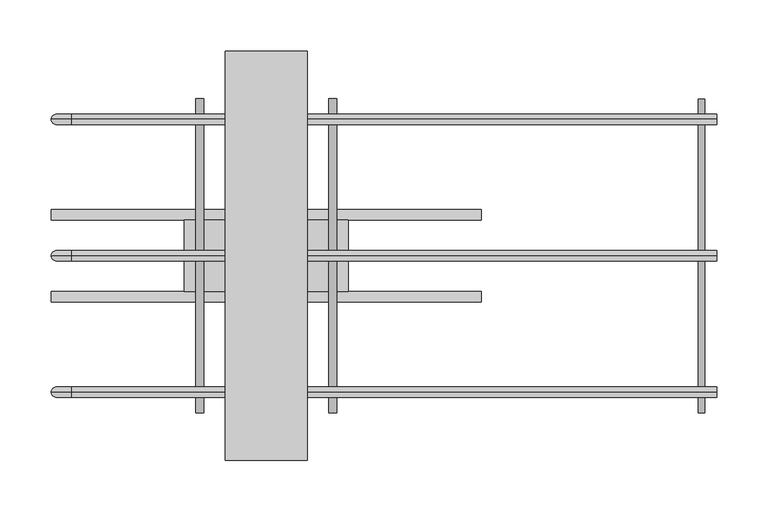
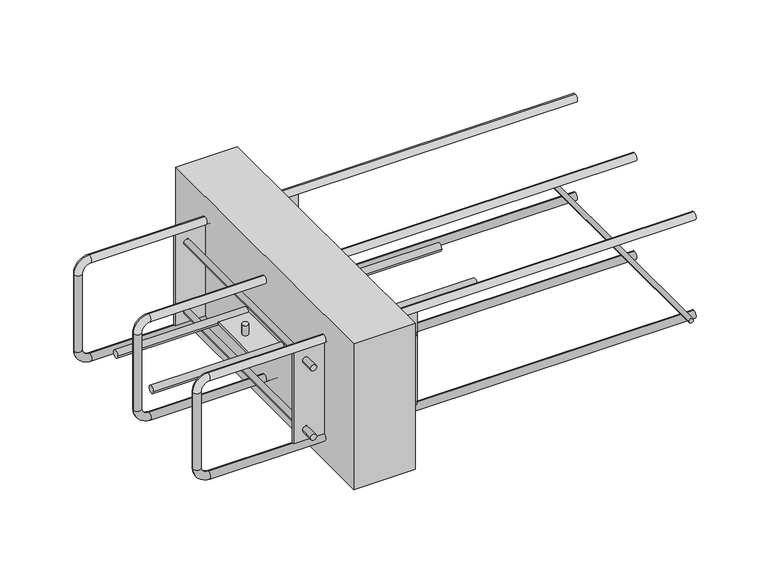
"""IFC4 building model written with IfcOpenShell, lengths in millimetres: proxy geometry, ACINOXplus_Typenreihe_Ux-Ox : UP+ S1."""

from ifc_helpers import new_model, si_unit, point, frame, frame_2d, origin, place, context, project, spatial, polyline, circle_curve, ellipse_curve, trimmed, segment, composite_curve, outline, extrude, source, transform, mapped, element, save
from ifc_brep_helpers import plane_surface, cylinder_surface, revolved_surface, advanced_brep


def generic_models_2ac76fd1(model_context):
    return source(origin(), model_context, "Body", "SolidModel", [
        extrude(outline(composite_curve([segment(trimmed(circle_curve(frame_2d((-159.5, 425.0)), 3.0), [point((-159.5, 428.0))], [point((-159.5, 422.0))], False, "CARTESIAN"), True, "CONTINUOUS"), segment(trimmed(circle_curve(frame_2d((-159.5, 425.0)), 3.0), [point((-159.5, 422.0))], [point((-159.5, 428.0))], False, "CARTESIAN"), True, "CONTINUOUS")], self_intersect=False)), frame((0.0, -153.3333333, 0.0), z_axis=(0.0, 1.0, 0.0), x_axis=(0.0, 0.0, 1.0)), (0.0, 0.0, 1.0), 306.6666667),
        extrude(outline(polyline([(40.0, 200.0), (40.0, -200.0), (-40.0, -200.0), (-40.0, 200.0), (40.0, 200.0)])), frame((0.0, 0.0, -200.0), z_axis=(0.0, 0.0, 1.0), x_axis=(1.0, 0.0, 0.0)), (0.0, 0.0, 1.0), 200.0),
        extrude(outline(composite_curve([segment(trimmed(circle_curve(frame_2d((-40.0, -100.0)), 5.0), [point((-45.0, -100.0))], [point((-35.0, -100.0))], False, "CARTESIAN"), True, "CONTINUOUS"), segment(trimmed(circle_curve(frame_2d((-40.0, -100.0)), 5.0), [point((-35.0, -100.0))], [point((-45.0, -100.0))], False, "CARTESIAN"), True, "CONTINUOUS")], self_intersect=False)), frame((-210.0, 0.0, 0.0), z_axis=(1.0, 0.0, 0.0), x_axis=(0.0, 1.0, 0.0)), (0.0, 0.0, 1.0), 420.0),
        extrude(outline(composite_curve([segment(trimmed(circle_curve(frame_2d((40.0, -100.0)), 5.0), [point((35.0, -100.0))], [point((45.0, -100.0))], False, "CARTESIAN"), True, "CONTINUOUS"), segment(trimmed(circle_curve(frame_2d((40.0, -100.0)), 5.0), [point((45.0, -100.0))], [point((35.0, -100.0))], False, "CARTESIAN"), True, "CONTINUOUS")], self_intersect=False)), frame((-210.0, 0.0, 0.0), z_axis=(1.0, 0.0, 0.0), x_axis=(0.0, 1.0, 0.0)), (0.0, 0.0, 1.0), 420.0),
        extrude(outline(composite_curve([segment(trimmed(circle_curve(frame_2d((-65.0, 0.0)), 4.0), [point((-61.0, 0.0))], [point((-69.0, 0.0))], False, "CARTESIAN"), True, "CONTINUOUS"), segment(trimmed(circle_curve(frame_2d((-65.0, 0.0)), 4.0), [point((-69.0, 0.0))], [point((-61.0, 0.0))], False, "CARTESIAN"), True, "CONTINUOUS")], self_intersect=False)), frame((0.0, 0.0, -98.5), z_axis=(0.0, 0.0, 1.0), x_axis=(1.0, 0.0, 0.0)), (0.0, 0.0, 1.0), 13.5),
        extrude(outline(composite_curve([segment(trimmed(circle_curve(frame_2d((65.0, 0.0)), 4.0), [point((69.0, 0.0))], [point((61.0, 0.0))], False, "CARTESIAN"), True, "CONTINUOUS"), segment(trimmed(circle_curve(frame_2d((65.0, 0.0)), 4.0), [point((61.0, 0.0))], [point((69.0, 0.0))], False, "CARTESIAN"), True, "CONTINUOUS")], self_intersect=False)), frame((0.0, 0.0, -98.5), z_axis=(0.0, 0.0, 1.0), x_axis=(1.0, 0.0, 0.0)), (0.0, 0.0, 1.0), 13.5),
        extrude(outline(composite_curve([segment(trimmed(circle_curve(frame_2d((-65.0, 0.0)), 4.0), [point((-69.0, 0.0))], [point((-61.0, 0.0))], False, "CARTESIAN"), True, "CONTINUOUS"), segment(trimmed(circle_curve(frame_2d((-65.0, 0.0)), 4.0), [point((-61.0, 0.0))], [point((-69.0, 0.0))], False, "CARTESIAN"), True, "CONTINUOUS")], self_intersect=False)), frame((0.0, 0.0, -115.0), z_axis=(0.0, 0.0, 1.0), x_axis=(1.0, 0.0, 0.0)), (0.0, 0.0, 1.0), 13.5),
        extrude(outline(composite_curve([segment(trimmed(circle_curve(frame_2d((65.0, 0.0)), 4.0), [point((61.0, 0.0))], [point((69.0, 0.0))], False, "CARTESIAN"), True, "CONTINUOUS"), segment(trimmed(circle_curve(frame_2d((65.0, 0.0)), 4.0), [point((69.0, 0.0))], [point((61.0, 0.0))], False, "CARTESIAN"), True, "CONTINUOUS")], self_intersect=False)), frame((0.0, 0.0, -115.0), z_axis=(0.0, 0.0, 1.0), x_axis=(1.0, 0.0, 0.0)), (0.0, 0.0, 1.0), 13.5),
        extrude(outline(polyline([(80.0, 35.0), (80.0, -35.0), (-80.0, -35.0), (-80.0, 35.0), (80.0, 35.0)])), frame((0.0, 0.0, -101.5), z_axis=(0.0, 0.0, 1.0), x_axis=(1.0, 0.0, 0.0)), (0.0, 0.0, 1.0), 3.0),
        extrude(outline(polyline([(80.0, -131.8333333), (80.0, -134.8333333), (-80.0, -134.8333333), (-80.0, -131.8333333), (80.0, -131.8333333)])), frame((0.0, 0.0, -162.5), z_axis=(0.0, 0.0, 1.0), x_axis=(1.0, 0.0, 0.0)), (0.0, 0.0, 1.0), 125.0),
        extrude(outline(polyline([(80.0, 134.8333333), (80.0, 131.8333333), (-80.0, 131.8333333), (-80.0, 134.8333333), (80.0, 134.8333333)])), frame((0.0, 0.0, -162.5), z_axis=(0.0, 0.0, 1.0), x_axis=(1.0, 0.0, 0.0)), (0.0, 0.0, 1.0), 125.0),
        extrude(outline(composite_curve([segment(trimmed(circle_curve(frame_2d((-147.5, -65.0)), 4.0), [point((-147.5, -69.0))], [point((-147.5, -61.0))], False, "CARTESIAN"), True, "CONTINUOUS"), segment(trimmed(circle_curve(frame_2d((-147.5, -65.0)), 4.0), [point((-147.5, -61.0))], [point((-147.5, -69.0))], False, "CARTESIAN"), True, "CONTINUOUS")], self_intersect=False)), frame((0.0, 134.8333333, 0.0), z_axis=(0.0, 1.0, 0.0), x_axis=(0.0, 0.0, 1.0)), (0.0, 0.0, 1.0), 18.5),
        extrude(outline(composite_curve([segment(trimmed(circle_curve(frame_2d((-147.5, -65.0)), 4.0), [point((-147.5, -61.0))], [point((-147.5, -69.0))], False, "CARTESIAN"), True, "CONTINUOUS"), segment(trimmed(circle_curve(frame_2d((-147.5, -65.0)), 4.0), [point((-147.5, -69.0))], [point((-147.5, -61.0))], False, "CARTESIAN"), True, "CONTINUOUS")], self_intersect=False)), frame((0.0, -153.3333333, 0.0), z_axis=(0.0, 1.0, 0.0), x_axis=(0.0, 0.0, 1.0)), (0.0, 0.0, 1.0), 18.5),
        extrude(outline(composite_curve([segment(trimmed(circle_curve(frame_2d((-147.5, -65.0)), 4.0), [point((-147.5, -69.0))], [point((-147.5, -61.0))], False, "CARTESIAN"), True, "CONTINUOUS"), segment(trimmed(circle_curve(frame_2d((-147.5, -65.0)), 4.0), [point((-147.5, -61.0))], [point((-147.5, -69.0))], False, "CARTESIAN"), True, "CONTINUOUS")], self_intersect=False)), frame((0.0, -131.8333333, 0.0), z_axis=(0.0, 1.0, 0.0), x_axis=(0.0, 0.0, 1.0)), (0.0, 0.0, 1.0), 263.6666667),
        extrude(outline(composite_curve([segment(trimmed(circle_curve(frame_2d((-147.5, 65.0)), 4.0), [point((-147.5, 61.0))], [point((-147.5, 69.0))], False, "CARTESIAN"), True, "CONTINUOUS"), segment(trimmed(circle_curve(frame_2d((-147.5, 65.0)), 4.0), [point((-147.5, 69.0))], [point((-147.5, 61.0))], False, "CARTESIAN"), True, "CONTINUOUS")], self_intersect=False)), frame((0.0, 134.8333333, 0.0), z_axis=(0.0, 1.0, 0.0), x_axis=(0.0, 0.0, 1.0)), (0.0, 0.0, 1.0), 18.5),
        extrude(outline(composite_curve([segment(trimmed(circle_curve(frame_2d((-147.5, 65.0)), 4.0), [point((-147.5, 69.0))], [point((-147.5, 61.0))], False, "CARTESIAN"), True, "CONTINUOUS"), segment(trimmed(circle_curve(frame_2d((-147.5, 65.0)), 4.0), [point((-147.5, 61.0))], [point((-147.5, 69.0))], False, "CARTESIAN"), True, "CONTINUOUS")], self_intersect=False)), frame((0.0, -153.3333333, 0.0), z_axis=(0.0, 1.0, 0.0), x_axis=(0.0, 0.0, 1.0)), (0.0, 0.0, 1.0), 18.5),
        extrude(outline(composite_curve([segment(trimmed(circle_curve(frame_2d((-147.5, 65.0)), 4.0), [point((-147.5, 61.0))], [point((-147.5, 69.0))], False, "CARTESIAN"), True, "CONTINUOUS"), segment(trimmed(circle_curve(frame_2d((-147.5, 65.0)), 4.0), [point((-147.5, 69.0))], [point((-147.5, 61.0))], False, "CARTESIAN"), True, "CONTINUOUS")], self_intersect=False)), frame((0.0, -131.8333333, 0.0), z_axis=(0.0, 1.0, 0.0), x_axis=(0.0, 0.0, 1.0)), (0.0, 0.0, 1.0), 263.6666667),
        extrude(outline(composite_curve([segment(trimmed(circle_curve(frame_2d((-52.5, -65.0)), 4.0), [point((-52.5, -69.0))], [point((-52.5, -61.0))], False, "CARTESIAN"), True, "CONTINUOUS"), segment(trimmed(circle_curve(frame_2d((-52.5, -65.0)), 4.0), [point((-52.5, -61.0))], [point((-52.5, -69.0))], False, "CARTESIAN"), True, "CONTINUOUS")], self_intersect=False)), frame((0.0, 134.8333333, 0.0), z_axis=(0.0, 1.0, 0.0), x_axis=(0.0, 0.0, 1.0)), (0.0, 0.0, 1.0), 18.5),
        extrude(outline(composite_curve([segment(trimmed(circle_curve(frame_2d((-52.5, -65.0)), 4.0), [point((-52.5, -61.0))], [point((-52.5, -69.0))], False, "CARTESIAN"), True, "CONTINUOUS"), segment(trimmed(circle_curve(frame_2d((-52.5, -65.0)), 4.0), [point((-52.5, -69.0))], [point((-52.5, -61.0))], False, "CARTESIAN"), True, "CONTINUOUS")], self_intersect=False)), frame((0.0, -153.3333333, 0.0), z_axis=(0.0, 1.0, 0.0), x_axis=(0.0, 0.0, 1.0)), (0.0, 0.0, 1.0), 18.5),
        extrude(outline(composite_curve([segment(trimmed(circle_curve(frame_2d((-52.5, -65.0)), 4.0), [point((-52.5, -69.0))], [point((-52.5, -61.0))], False, "CARTESIAN"), True, "CONTINUOUS"), segment(trimmed(circle_curve(frame_2d((-52.5, -65.0)), 4.0), [point((-52.5, -61.0))], [point((-52.5, -69.0))], False, "CARTESIAN"), True, "CONTINUOUS")], self_intersect=False)), frame((0.0, -131.8333333, 0.0), z_axis=(0.0, 1.0, 0.0), x_axis=(0.0, 0.0, 1.0)), (0.0, 0.0, 1.0), 263.6666667),
        extrude(outline(composite_curve([segment(trimmed(circle_curve(frame_2d((-52.5, 65.0)), 4.0), [point((-52.5, 61.0))], [point((-52.5, 69.0))], False, "CARTESIAN"), True, "CONTINUOUS"), segment(trimmed(circle_curve(frame_2d((-52.5, 65.0)), 4.0), [point((-52.5, 69.0))], [point((-52.5, 61.0))], False, "CARTESIAN"), True, "CONTINUOUS")], self_intersect=False)), frame((0.0, 134.8333333, 0.0), z_axis=(0.0, 1.0, 0.0), x_axis=(0.0, 0.0, 1.0)), (0.0, 0.0, 1.0), 18.5),
        extrude(outline(composite_curve([segment(trimmed(circle_curve(frame_2d((-52.5, 65.0)), 4.0), [point((-52.5, 69.0))], [point((-52.5, 61.0))], False, "CARTESIAN"), True, "CONTINUOUS"), segment(trimmed(circle_curve(frame_2d((-52.5, 65.0)), 4.0), [point((-52.5, 61.0))], [point((-52.5, 69.0))], False, "CARTESIAN"), True, "CONTINUOUS")], self_intersect=False)), frame((0.0, -153.3333333, 0.0), z_axis=(0.0, 1.0, 0.0), x_axis=(0.0, 0.0, 1.0)), (0.0, 0.0, 1.0), 18.5),
        extrude(outline(composite_curve([segment(trimmed(circle_curve(frame_2d((-52.5, 65.0)), 4.0), [point((-52.5, 61.0))], [point((-52.5, 69.0))], False, "CARTESIAN"), True, "CONTINUOUS"), segment(trimmed(circle_curve(frame_2d((-52.5, 65.0)), 4.0), [point((-52.5, 69.0))], [point((-52.5, 61.0))], False, "CARTESIAN"), True, "CONTINUOUS")], self_intersect=False)), frame((0.0, -131.8333333, 0.0), z_axis=(0.0, 1.0, 0.0), x_axis=(0.0, 0.0, 1.0)), (0.0, 0.0, 1.0), 263.6666667),
        advanced_brep(
        [(440.0, 0.0, -27.5), (440.0, 0.0, -37.5), (-190.0, 0.0, -27.5), (-190.0, 0.0, -37.5), (-200.0, 0.0, -47.5), (-210.0, 0.0, -47.5), (-210.0, 0.0, -152.5), (-200.0, 0.0, -152.5), (-190.0, 0.0, -162.5), (-190.0, 0.0, -172.5), (440.0, 0.0, -172.5), (440.0, 0.0, -162.5)],
        [
            (0, 1, circle_curve(frame((440.0, 0.0, -32.5), z_axis=(1.0, 0.0, 0.0), x_axis=(0.0, 0.0, -1.0)), 5.0)),
            (1, 0, circle_curve(frame((440.0, 0.0, -32.5), z_axis=(1.0, 0.0, 0.0), x_axis=(0.0, 0.0, -1.0)), 5.0)),
            (0, 2),
            (2, 3, circle_curve(frame((-190.0, 0.0, -32.5), z_axis=(1.0, 0.0, 0.0), x_axis=(0.0, 0.0, -1.0)), 5.0)),
            (3, 1),
            (3, 2, circle_curve(frame((-190.0, 0.0, -32.5), z_axis=(1.0, 0.0, 0.0), x_axis=(0.0, 0.0, -1.0)), 5.0)),
            (4, 3, circle_curve(frame((-190.0, 0.0, -47.5), z_axis=(0.0, 1.0, 0.0), x_axis=(0.0, 0.0, 1.0)), 10.0)),
            (2, 5, circle_curve(frame((-190.0, 0.0, -47.5), z_axis=(0.0, -1.0, 0.0), x_axis=(0.0, 0.0, 1.0)), 20.0)),
            (5, 4, circle_curve(frame((-205.0, 0.0, -47.5), z_axis=(0.0, 0.0, 1.0), x_axis=(1.0, 0.0, 0.0)), 5.0)),
            (4, 5, circle_curve(frame((-205.0, 0.0, -47.5), z_axis=(0.0, 0.0, 1.0), x_axis=(1.0, 0.0, 0.0)), 5.0)),
            (5, 6),
            (6, 7, circle_curve(frame((-205.0, 0.0, -152.5), z_axis=(0.0, 0.0, 1.0), x_axis=(1.0, 0.0, 0.0)), 5.0)),
            (7, 4),
            (7, 6, circle_curve(frame((-205.0, 0.0, -152.5), z_axis=(0.0, 0.0, 1.0), x_axis=(1.0, 0.0, 0.0)), 5.0)),
            (8, 7, circle_curve(frame((-190.0, 0.0, -152.5), z_axis=(0.0, 1.0, 0.0), x_axis=(-1.0, 0.0, 0.0)), 10.0)),
            (6, 9, circle_curve(frame((-190.0, 0.0, -152.5), z_axis=(0.0, -1.0, 0.0), x_axis=(-1.0, 0.0, 0.0)), 20.0)),
            (9, 8, circle_curve(frame((-190.0, 0.0, -167.5), z_axis=(-1.0, 0.0, 0.0), x_axis=(0.0, 0.0, 1.0)), 5.0)),
            (8, 9, circle_curve(frame((-190.0, 0.0, -167.5), z_axis=(-1.0, 0.0, 0.0), x_axis=(0.0, 0.0, 1.0)), 5.0)),
            (10, 11, circle_curve(frame((440.0, 0.0, -167.5), z_axis=(1.0, 0.0, 0.0), x_axis=(0.0, 0.0, 1.0)), 5.0)),
            (11, 10, circle_curve(frame((440.0, 0.0, -167.5), z_axis=(1.0, 0.0, 0.0), x_axis=(0.0, 0.0, 1.0)), 5.0)),
            (9, 10),
            (11, 8),
        ],
        [
            plane_surface(frame((440.0, 0.0, -32.5), z_axis=(1.0, 0.0, 0.0), x_axis=(0.0, -1.0, 0.0))),
            cylinder_surface(frame((440.0, 0.0, -32.5), z_axis=(1.0, 0.0, 0.0), x_axis=(0.0, 0.0, -1.0)), 5.0),
            revolved_surface(trimmed(ellipse_curve(frame((-190.0, 0.0, -32.5), z_axis=(1.0, 0.0, 0.0), x_axis=(0.0, 0.0, -1.0)), 5.0, 5.0), [point((-190.0, 0.0, -27.5))], [point((-190.0, 0.0, -37.5))], True, "CARTESIAN"), (-190.0, 0.0, -47.5), (0.0, -1.0, 0.0)),
            revolved_surface(trimmed(ellipse_curve(frame((-190.0, 0.0, -32.5), z_axis=(1.0, 0.0, 0.0), x_axis=(0.0, 0.0, -1.0)), 5.0, 5.0), [point((-190.0, 0.0, -37.5))], [point((-190.0, 0.0, -27.5))], True, "CARTESIAN"), (-190.0, 0.0, -47.5), (0.0, -1.0, 0.0)),
            cylinder_surface(frame((-205.0, 0.0, -47.5), z_axis=(0.0, 0.0, 1.0), x_axis=(1.0, 0.0, 0.0)), 5.0),
            revolved_surface(trimmed(ellipse_curve(frame((-205.0, 0.0, -152.5), z_axis=(0.0, 0.0, 1.0), x_axis=(1.0, 0.0, 0.0)), 5.0, 5.0), [point((-210.0, 0.0, -152.5))], [point((-200.0, 0.0, -152.5))], True, "CARTESIAN"), (-190.0, 0.0, -152.5), (0.0, -1.0, 0.0)),
            revolved_surface(trimmed(ellipse_curve(frame((-205.0, 0.0, -152.5), z_axis=(0.0, 0.0, 1.0), x_axis=(1.0, 0.0, 0.0)), 5.0, 5.0), [point((-200.0, 0.0, -152.5))], [point((-210.0, 0.0, -152.5))], True, "CARTESIAN"), (-190.0, 0.0, -152.5), (0.0, -1.0, 0.0)),
            plane_surface(frame((440.0, 0.0, -167.5), z_axis=(1.0, 0.0, 0.0), x_axis=(0.0, -1.0, 0.0))),
            cylinder_surface(frame((-190.0, 0.0, -167.5), z_axis=(-1.0, 0.0, 0.0), x_axis=(0.0, 0.0, 1.0)), 5.0),
        ],
        [
            (0, [[1, 2]]),
            (1, [[-1, 3, 4, 5]]),
            (1, [[-2, -5, 6, -3]]),
            (2, [[7, -4, 8, 9]]),
            (3, [[-8, -6, -7, 10]]),
            (4, [[-9, 11, 12, 13]]),
            (4, [[-10, -13, 14, -11]]),
            (5, [[15, -12, 16, 17]]),
            (6, [[-16, -14, -15, 18]]),
            (7, [[19, 20]]),
            (8, [[-17, 21, -20, 22]]),
            (8, [[-18, -22, -19, -21]]),
        ],
    ),
        advanced_brep(
        [(440.0, 133.3333333, -27.5), (440.0, 133.3333333, -37.5), (-190.0, 133.3333333, -27.5), (-190.0, 133.3333333, -37.5), (-200.0, 133.3333333, -47.5), (-210.0, 133.3333333, -47.5), (-210.0, 133.3333333, -152.5), (-200.0, 133.3333333, -152.5), (-190.0, 133.3333333, -162.5), (-190.0, 133.3333333, -172.5), (440.0, 133.3333333, -172.5), (440.0, 133.3333333, -162.5)],
        [
            (0, 1, circle_curve(frame((440.0, 133.3333333, -32.5), z_axis=(1.0, 0.0, 0.0), x_axis=(0.0, 0.0, -1.0)), 5.0)),
            (1, 0, circle_curve(frame((440.0, 133.3333333, -32.5), z_axis=(1.0, 0.0, 0.0), x_axis=(0.0, 0.0, -1.0)), 5.0)),
            (0, 2),
            (2, 3, circle_curve(frame((-190.0, 133.3333333, -32.5), z_axis=(1.0, 0.0, 0.0), x_axis=(0.0, 0.0, -1.0)), 5.0)),
            (3, 1),
            (3, 2, circle_curve(frame((-190.0, 133.3333333, -32.5), z_axis=(1.0, 0.0, 0.0), x_axis=(0.0, 0.0, -1.0)), 5.0)),
            (4, 3, circle_curve(frame((-190.0, 133.3333333, -47.5), z_axis=(0.0, 1.0, 0.0), x_axis=(0.0, 0.0, 1.0)), 10.0)),
            (2, 5, circle_curve(frame((-190.0, 133.3333333, -47.5), z_axis=(0.0, -1.0, 0.0), x_axis=(0.0, 0.0, 1.0)), 20.0)),
            (5, 4, circle_curve(frame((-205.0, 133.3333333, -47.5), z_axis=(0.0, 0.0, 1.0), x_axis=(1.0, 0.0, 0.0)), 5.0)),
            (4, 5, circle_curve(frame((-205.0, 133.3333333, -47.5), z_axis=(0.0, 0.0, 1.0), x_axis=(1.0, 0.0, 0.0)), 5.0)),
            (5, 6),
            (6, 7, circle_curve(frame((-205.0, 133.3333333, -152.5), z_axis=(0.0, 0.0, 1.0), x_axis=(1.0, 0.0, 0.0)), 5.0)),
            (7, 4),
            (7, 6, circle_curve(frame((-205.0, 133.3333333, -152.5), z_axis=(0.0, 0.0, 1.0), x_axis=(1.0, 0.0, 0.0)), 5.0)),
            (8, 7, circle_curve(frame((-190.0, 133.3333333, -152.5), z_axis=(0.0, 1.0, 0.0), x_axis=(-1.0, 0.0, 0.0)), 10.0)),
            (6, 9, circle_curve(frame((-190.0, 133.3333333, -152.5), z_axis=(0.0, -1.0, 0.0), x_axis=(-1.0, 0.0, 0.0)), 20.0)),
            (9, 8, circle_curve(frame((-190.0, 133.3333333, -167.5), z_axis=(-1.0, 0.0, 0.0), x_axis=(0.0, 0.0, 1.0)), 5.0)),
            (8, 9, circle_curve(frame((-190.0, 133.3333333, -167.5), z_axis=(-1.0, 0.0, 0.0), x_axis=(0.0, 0.0, 1.0)), 5.0)),
            (10, 11, circle_curve(frame((440.0, 133.3333333, -167.5), z_axis=(1.0, 0.0, 0.0), x_axis=(0.0, 0.0, 1.0)), 5.0)),
            (11, 10, circle_curve(frame((440.0, 133.3333333, -167.5), z_axis=(1.0, 0.0, 0.0), x_axis=(0.0, 0.0, 1.0)), 5.0)),
            (9, 10),
            (11, 8),
        ],
        [
            plane_surface(frame((440.0, 133.3333333, -32.5), z_axis=(1.0, 0.0, 0.0), x_axis=(0.0, -1.0, 0.0))),
            cylinder_surface(frame((440.0, 133.3333333, -32.5), z_axis=(1.0, 0.0, 0.0), x_axis=(0.0, 0.0, -1.0)), 5.0),
            revolved_surface(trimmed(ellipse_curve(frame((-190.0, 133.3333333, -32.5), z_axis=(1.0, 0.0, 0.0), x_axis=(0.0, 0.0, -1.0)), 5.0, 5.0), [point((-190.0, 133.3333333, -27.5))], [point((-190.0, 133.3333333, -37.5))], True, "CARTESIAN"), (-190.0, 133.3333333, -47.5), (0.0, -1.0, 0.0)),
            revolved_surface(trimmed(ellipse_curve(frame((-190.0, 133.3333333, -32.5), z_axis=(1.0, 0.0, 0.0), x_axis=(0.0, 0.0, -1.0)), 5.0, 5.0), [point((-190.0, 133.3333333, -37.5))], [point((-190.0, 133.3333333, -27.5))], True, "CARTESIAN"), (-190.0, 133.3333333, -47.5), (0.0, -1.0, 0.0)),
            cylinder_surface(frame((-205.0, 133.3333333, -47.5), z_axis=(0.0, 0.0, 1.0), x_axis=(1.0, 0.0, 0.0)), 5.0),
            revolved_surface(trimmed(ellipse_curve(frame((-205.0, 133.3333333, -152.5), z_axis=(0.0, 0.0, 1.0), x_axis=(1.0, 0.0, 0.0)), 5.0, 5.0), [point((-210.0, 133.3333333, -152.5))], [point((-200.0, 133.3333333, -152.5))], True, "CARTESIAN"), (-190.0, 133.3333333, -152.5), (0.0, -1.0, 0.0)),
            revolved_surface(trimmed(ellipse_curve(frame((-205.0, 133.3333333, -152.5), z_axis=(0.0, 0.0, 1.0), x_axis=(1.0, 0.0, 0.0)), 5.0, 5.0), [point((-200.0, 133.3333333, -152.5))], [point((-210.0, 133.3333333, -152.5))], True, "CARTESIAN"), (-190.0, 133.3333333, -152.5), (0.0, -1.0, 0.0)),
            plane_surface(frame((440.0, 133.3333333, -167.5), z_axis=(1.0, 0.0, 0.0), x_axis=(0.0, -1.0, 0.0))),
            cylinder_surface(frame((-190.0, 133.3333333, -167.5), z_axis=(-1.0, 0.0, 0.0), x_axis=(0.0, 0.0, 1.0)), 5.0),
        ],
        [
            (0, [[1, 2]]),
            (1, [[-1, 3, 4, 5]]),
            (1, [[-2, -5, 6, -3]]),
            (2, [[7, -4, 8, 9]]),
            (3, [[-8, -6, -7, 10]]),
            (4, [[-9, 11, 12, 13]]),
            (4, [[-10, -13, 14, -11]]),
            (5, [[15, -12, 16, 17]]),
            (6, [[-16, -14, -15, 18]]),
            (7, [[19, 20]]),
            (8, [[-17, 21, -20, 22]]),
            (8, [[-18, -22, -19, -21]]),
        ],
    ),
        advanced_brep(
        [(440.0, -133.3333333, -27.5), (440.0, -133.3333333, -37.5), (-190.0, -133.3333333, -27.5), (-190.0, -133.3333333, -37.5), (-200.0, -133.3333333, -47.5), (-210.0, -133.3333333, -47.5), (-210.0, -133.3333333, -152.5), (-200.0, -133.3333333, -152.5), (-190.0, -133.3333333, -162.5), (-190.0, -133.3333333, -172.5), (440.0, -133.3333333, -172.5), (440.0, -133.3333333, -162.5)],
        [
            (0, 1, circle_curve(frame((440.0, -133.3333333, -32.5), z_axis=(1.0, 0.0, 0.0), x_axis=(0.0, 0.0, -1.0)), 5.0)),
            (1, 0, circle_curve(frame((440.0, -133.3333333, -32.5), z_axis=(1.0, 0.0, 0.0), x_axis=(0.0, 0.0, -1.0)), 5.0)),
            (0, 2),
            (2, 3, circle_curve(frame((-190.0, -133.3333333, -32.5), z_axis=(1.0, 0.0, 0.0), x_axis=(0.0, 0.0, -1.0)), 5.0)),
            (3, 1),
            (3, 2, circle_curve(frame((-190.0, -133.3333333, -32.5), z_axis=(1.0, 0.0, 0.0), x_axis=(0.0, 0.0, -1.0)), 5.0)),
            (4, 3, circle_curve(frame((-190.0, -133.3333333, -47.5), z_axis=(0.0, 1.0, 0.0), x_axis=(0.0, 0.0, 1.0)), 10.0)),
            (2, 5, circle_curve(frame((-190.0, -133.3333333, -47.5), z_axis=(0.0, -1.0, 0.0), x_axis=(0.0, 0.0, 1.0)), 20.0)),
            (5, 4, circle_curve(frame((-205.0, -133.3333333, -47.5), z_axis=(0.0, 0.0, 1.0), x_axis=(1.0, 0.0, 0.0)), 5.0)),
            (4, 5, circle_curve(frame((-205.0, -133.3333333, -47.5), z_axis=(0.0, 0.0, 1.0), x_axis=(1.0, 0.0, 0.0)), 5.0)),
            (5, 6),
            (6, 7, circle_curve(frame((-205.0, -133.3333333, -152.5), z_axis=(0.0, 0.0, 1.0), x_axis=(1.0, 0.0, 0.0)), 5.0)),
            (7, 4),
            (7, 6, circle_curve(frame((-205.0, -133.3333333, -152.5), z_axis=(0.0, 0.0, 1.0), x_axis=(1.0, 0.0, 0.0)), 5.0)),
            (8, 7, circle_curve(frame((-190.0, -133.3333333, -152.5), z_axis=(0.0, 1.0, 0.0), x_axis=(-1.0, 0.0, 0.0)), 10.0)),
            (6, 9, circle_curve(frame((-190.0, -133.3333333, -152.5), z_axis=(0.0, -1.0, 0.0), x_axis=(-1.0, 0.0, 0.0)), 20.0)),
            (9, 8, circle_curve(frame((-190.0, -133.3333333, -167.5), z_axis=(-1.0, 0.0, 0.0), x_axis=(0.0, 0.0, 1.0)), 5.0)),
            (8, 9, circle_curve(frame((-190.0, -133.3333333, -167.5), z_axis=(-1.0, 0.0, 0.0), x_axis=(0.0, 0.0, 1.0)), 5.0)),
            (10, 11, circle_curve(frame((440.0, -133.3333333, -167.5), z_axis=(1.0, 0.0, 0.0), x_axis=(0.0, 0.0, 1.0)), 5.0)),
            (11, 10, circle_curve(frame((440.0, -133.3333333, -167.5), z_axis=(1.0, 0.0, 0.0), x_axis=(0.0, 0.0, 1.0)), 5.0)),
            (9, 10),
            (11, 8),
        ],
        [
            plane_surface(frame((440.0, -133.3333333, -32.5), z_axis=(1.0, 0.0, 0.0), x_axis=(0.0, -1.0, 0.0))),
            cylinder_surface(frame((440.0, -133.3333333, -32.5), z_axis=(1.0, 0.0, 0.0), x_axis=(0.0, 0.0, -1.0)), 5.0),
            revolved_surface(trimmed(ellipse_curve(frame((-190.0, -133.3333333, -32.5), z_axis=(1.0, 0.0, 0.0), x_axis=(0.0, 0.0, -1.0)), 5.0, 5.0), [point((-190.0, -133.3333333, -27.5))], [point((-190.0, -133.3333333, -37.5))], True, "CARTESIAN"), (-190.0, -133.3333333, -47.5), (0.0, -1.0, 0.0)),
            revolved_surface(trimmed(ellipse_curve(frame((-190.0, -133.3333333, -32.5), z_axis=(1.0, 0.0, 0.0), x_axis=(0.0, 0.0, -1.0)), 5.0, 5.0), [point((-190.0, -133.3333333, -37.5))], [point((-190.0, -133.3333333, -27.5))], True, "CARTESIAN"), (-190.0, -133.3333333, -47.5), (0.0, -1.0, 0.0)),
            cylinder_surface(frame((-205.0, -133.3333333, -47.5), z_axis=(0.0, 0.0, 1.0), x_axis=(1.0, 0.0, 0.0)), 5.0),
            revolved_surface(trimmed(ellipse_curve(frame((-205.0, -133.3333333, -152.5), z_axis=(0.0, 0.0, 1.0), x_axis=(1.0, 0.0, 0.0)), 5.0, 5.0), [point((-210.0, -133.3333333, -152.5))], [point((-200.0, -133.3333333, -152.5))], True, "CARTESIAN"), (-190.0, -133.3333333, -152.5), (0.0, -1.0, 0.0)),
            revolved_surface(trimmed(ellipse_curve(frame((-205.0, -133.3333333, -152.5), z_axis=(0.0, 0.0, 1.0), x_axis=(1.0, 0.0, 0.0)), 5.0, 5.0), [point((-200.0, -133.3333333, -152.5))], [point((-210.0, -133.3333333, -152.5))], True, "CARTESIAN"), (-190.0, -133.3333333, -152.5), (0.0, -1.0, 0.0)),
            plane_surface(frame((440.0, -133.3333333, -167.5), z_axis=(1.0, 0.0, 0.0), x_axis=(0.0, -1.0, 0.0))),
            cylinder_surface(frame((-190.0, -133.3333333, -167.5), z_axis=(-1.0, 0.0, 0.0), x_axis=(0.0, 0.0, 1.0)), 5.0),
        ],
        [
            (0, [[1, 2]]),
            (1, [[-1, 3, 4, 5]]),
            (1, [[-2, -5, 6, -3]]),
            (2, [[7, -4, 8, 9]]),
            (3, [[-8, -6, -7, 10]]),
            (4, [[-9, 11, 12, 13]]),
            (4, [[-10, -13, 14, -11]]),
            (5, [[15, -12, 16, 17]]),
            (6, [[-16, -14, -15, 18]]),
            (7, [[19, 20]]),
            (8, [[-17, 21, -20, 22]]),
            (8, [[-18, -22, -19, -21]]),
        ],
    ),
    ])


if __name__ == "__main__":
    model = new_model("IFC4")
    model_context = context("Model", 3, world=origin())
    ifc_project = project(units=[si_unit("LENGTHUNIT", "METRE", prefix="MILLI")], contexts=[model_context])
    site = spatial("IfcSite", under=ifc_project)
    building = spatial("IfcBuilding", under=site)
    placement = place(None, origin())
    generic_models_shape = generic_models_2ac76fd1(model_context)
    element("IfcBuildingElementProxy", 1, Name="ACINOXplus_Typenreihe_Ux-Ox : UP+ S1", ObjectType="ACINOXplus_Typenreihe_Ux-Ox : UP+ S1", at=placement, inside=building, context=model_context, shape_type="MappedRepresentation", body=[
        mapped(generic_models_shape, transform((0.0, 0.0, 0.0), x_axis=(1.0, 0.0, 0.0), y_axis=(0.0, 1.0, 0.0), z_axis=(0.0, 0.0, 1.0))),
    ])
    save(model, "model.ifc")
